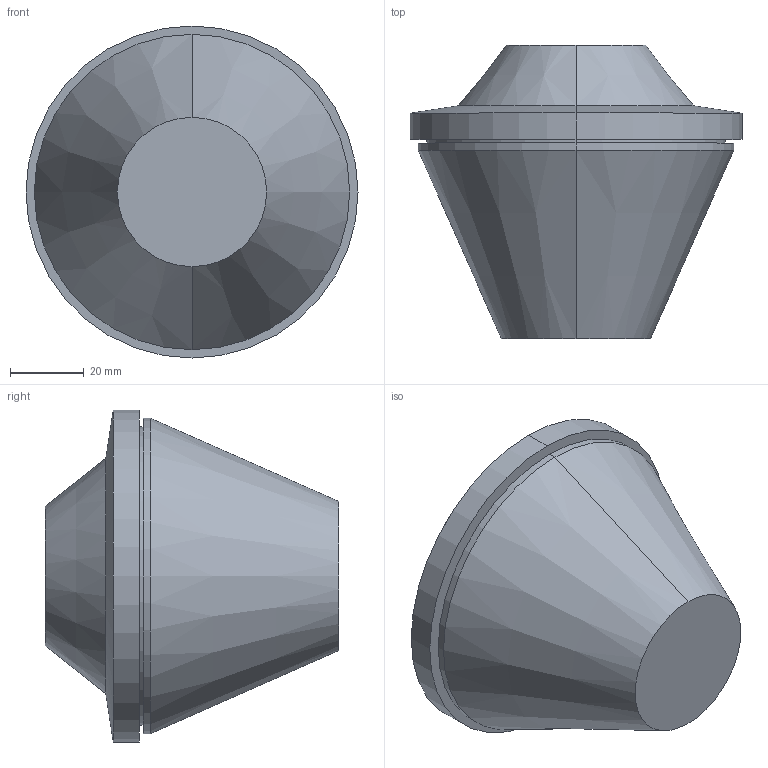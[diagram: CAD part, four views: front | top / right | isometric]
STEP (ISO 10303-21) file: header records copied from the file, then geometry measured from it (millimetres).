
FILE_DESCRIPTION (( 'STEP AP203' ), '1' );
FILE_NAME ('100743.STEP', '2012-10-29T10:31:21', ( 'Joni' ), ( 'Hewlett-Packard Company' ), 'SwSTEP 2.0', 'SolidWorks 2012', '' );
FILE_SCHEMA (( 'CONFIG_CONTROL_DESIGN' ));
Length unit declared in the file: millimetre
Products named in the file (1): 100743
Bounding box: 90 x 79.5 x 90 mm (x, y, z)
Volume: 270889.6 mm3; surface area: 24577.9 mm2
Topology: 1 solids, 1 shells, 16 faces, 30 edges, 18 vertices
Faces by surface type: cone 6, cylinder 6, plane 4
Entity records: 481 total; most frequent: DIRECTION 82, CARTESIAN_POINT 65, ORIENTED_EDGE 60, AXIS2_PLACEMENT_3D 35, EDGE_CURVE 30, VERTEX_POINT 18, EDGE_LOOP 18, CIRCLE 18
